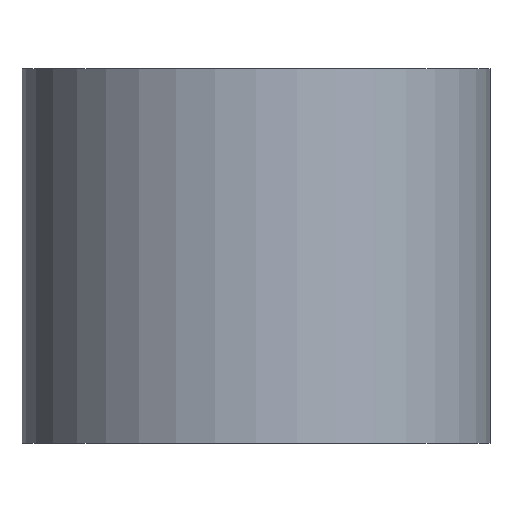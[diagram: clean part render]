
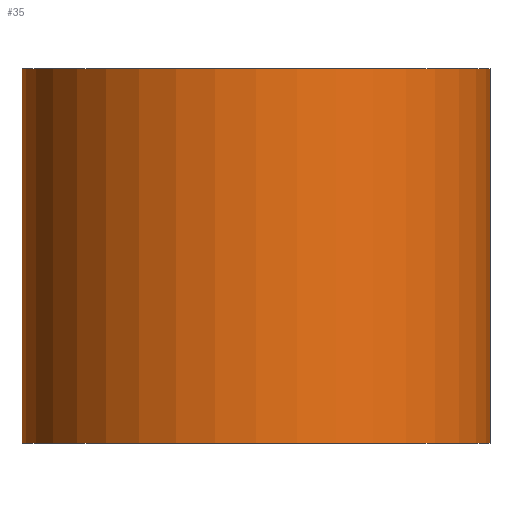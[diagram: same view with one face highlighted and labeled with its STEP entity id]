
A CAD part, front view. The second image highlights one B-rep face of the part: STEP entity #35.
In plain terms, the highlighted cylindrical face has radius 2.5 mm (diameter 5 mm), a full revolution.
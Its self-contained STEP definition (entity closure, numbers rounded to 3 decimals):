
#35 = ADVANCED_FACE('',(#36),#49,.T.);
#36 = FACE_BOUND('',#37,.T.);
#37 = EDGE_LOOP('',(#38,#72,#95,#122));
#38 = ORIENTED_EDGE('',*,*,#39,.F.);
#39 = EDGE_CURVE('',#40,#40,#42,.T.);
#40 = VERTEX_POINT('',#41);
#41 = CARTESIAN_POINT('',(-29.5,12.5,34.8));
#42 = SURFACE_CURVE('',#43,(#48,#60),.PCURVE_S1.);
#43 = CIRCLE('',#44,2.5);
#44 = AXIS2_PLACEMENT_3D('',#45,#46,#47);
#45 = CARTESIAN_POINT('',(-32.,12.5,34.8));
#46 = DIRECTION('',(0.,0.,1.));
#47 = DIRECTION('',(1.,0.,-0.));
#48 = PCURVE('',#49,#54);
#49 = CYLINDRICAL_SURFACE('',#50,2.5);
#50 = AXIS2_PLACEMENT_3D('',#51,#52,#53);
#51 = CARTESIAN_POINT('',(-32.,12.5,30.8));
#52 = DIRECTION('',(0.,0.,1.));
#53 = DIRECTION('',(1.,0.,-0.));
#54 = DEFINITIONAL_REPRESENTATION('',(#55),#59);
#55 = LINE('',#56,#57);
#56 = CARTESIAN_POINT('',(0.,4.));
#57 = VECTOR('',#58,1.);
#58 = DIRECTION('',(1.,0.));
#59 = ( GEOMETRIC_REPRESENTATION_CONTEXT(2) 
PARAMETRIC_REPRESENTATION_CONTEXT() REPRESENTATION_CONTEXT('2D SPACE',''
  ) );
#60 = PCURVE('',#61,#66);
#61 = PLANE('',#62);
#62 = AXIS2_PLACEMENT_3D('',#63,#64,#65);
#63 = CARTESIAN_POINT('',(-32.,12.5,34.8));
#64 = DIRECTION('',(0.,0.,1.));
#65 = DIRECTION('',(1.,0.,-0.));
#66 = DEFINITIONAL_REPRESENTATION('',(#67),#71);
#67 = CIRCLE('',#68,2.5);
#68 = AXIS2_PLACEMENT_2D('',#69,#70);
#69 = CARTESIAN_POINT('',(0.,0.));
#70 = DIRECTION('',(1.,0.));
#71 = ( GEOMETRIC_REPRESENTATION_CONTEXT(2) 
PARAMETRIC_REPRESENTATION_CONTEXT() REPRESENTATION_CONTEXT('2D SPACE',''
  ) );
#72 = ORIENTED_EDGE('',*,*,#73,.F.);
#73 = EDGE_CURVE('',#74,#40,#76,.T.);
#74 = VERTEX_POINT('',#75);
#75 = CARTESIAN_POINT('',(-29.5,12.5,30.8));
#76 = SEAM_CURVE('',#77,(#81,#88),.PCURVE_S1.);
#77 = LINE('',#78,#79);
#78 = CARTESIAN_POINT('',(-29.5,12.5,30.8));
#79 = VECTOR('',#80,1.);
#80 = DIRECTION('',(0.,0.,1.));
#81 = PCURVE('',#49,#82);
#82 = DEFINITIONAL_REPRESENTATION('',(#83),#87);
#83 = LINE('',#84,#85);
#84 = CARTESIAN_POINT('',(6.283,-0.));
#85 = VECTOR('',#86,1.);
#86 = DIRECTION('',(0.,1.));
#87 = ( GEOMETRIC_REPRESENTATION_CONTEXT(2) 
PARAMETRIC_REPRESENTATION_CONTEXT() REPRESENTATION_CONTEXT('2D SPACE',''
  ) );
#88 = PCURVE('',#49,#89);
#89 = DEFINITIONAL_REPRESENTATION('',(#90),#94);
#90 = LINE('',#91,#92);
#91 = CARTESIAN_POINT('',(0.,-0.));
#92 = VECTOR('',#93,1.);
#93 = DIRECTION('',(0.,1.));
#94 = ( GEOMETRIC_REPRESENTATION_CONTEXT(2) 
PARAMETRIC_REPRESENTATION_CONTEXT() REPRESENTATION_CONTEXT('2D SPACE',''
  ) );
#95 = ORIENTED_EDGE('',*,*,#96,.T.);
#96 = EDGE_CURVE('',#74,#74,#97,.T.);
#97 = SURFACE_CURVE('',#98,(#103,#110),.PCURVE_S1.);
#98 = CIRCLE('',#99,2.5);
#99 = AXIS2_PLACEMENT_3D('',#100,#101,#102);
#100 = CARTESIAN_POINT('',(-32.,12.5,30.8));
#101 = DIRECTION('',(0.,0.,1.));
#102 = DIRECTION('',(1.,0.,-0.));
#103 = PCURVE('',#49,#104);
#104 = DEFINITIONAL_REPRESENTATION('',(#105),#109);
#105 = LINE('',#106,#107);
#106 = CARTESIAN_POINT('',(0.,0.));
#107 = VECTOR('',#108,1.);
#108 = DIRECTION('',(1.,0.));
#109 = ( GEOMETRIC_REPRESENTATION_CONTEXT(2) 
PARAMETRIC_REPRESENTATION_CONTEXT() REPRESENTATION_CONTEXT('2D SPACE',''
  ) );
#110 = PCURVE('',#111,#116);
#111 = PLANE('',#112);
#112 = AXIS2_PLACEMENT_3D('',#113,#114,#115);
#113 = CARTESIAN_POINT('',(-32.,12.5,30.8));
#114 = DIRECTION('',(0.,0.,1.));
#115 = DIRECTION('',(1.,0.,-0.));
#116 = DEFINITIONAL_REPRESENTATION('',(#117),#121);
#117 = CIRCLE('',#118,2.5);
#118 = AXIS2_PLACEMENT_2D('',#119,#120);
#119 = CARTESIAN_POINT('',(0.,0.));
#120 = DIRECTION('',(1.,0.));
#121 = ( GEOMETRIC_REPRESENTATION_CONTEXT(2) 
PARAMETRIC_REPRESENTATION_CONTEXT() REPRESENTATION_CONTEXT('2D SPACE',''
  ) );
#122 = ORIENTED_EDGE('',*,*,#73,.T.);
